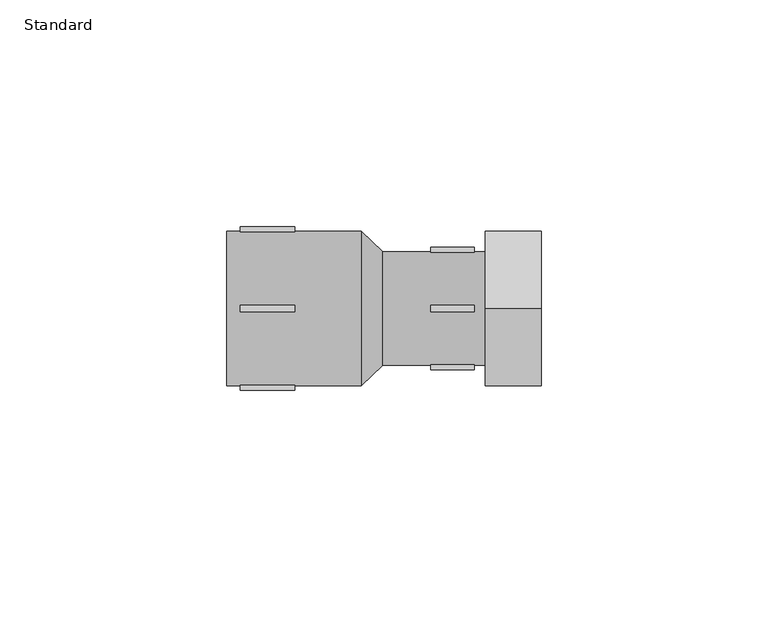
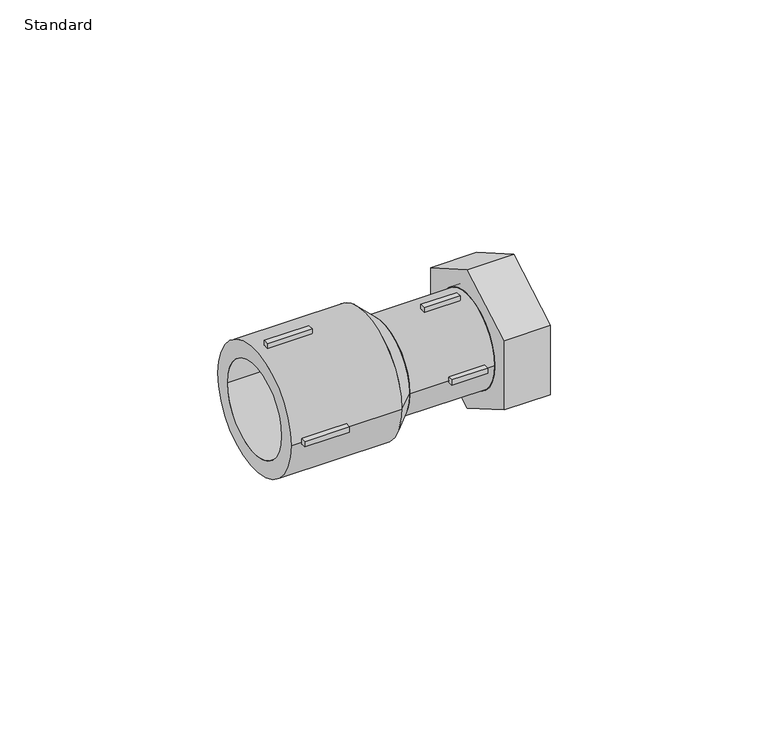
"""IFC4 building model written with IfcOpenShell, lengths in millimetres: pipe fitting geometry, EGB_VASEN_ PPR_Enlace tuerca loca : Standard."""

from ifc_helpers import new_model, si_unit, point, frame, origin, origin_2d, place, context, project, spatial, polyline, circle_curve, trimmed, segment, composite_curve, outline, extrude, source, transform, mapped, element, save
from ifc_brep_helpers import plane_surface, revolved_surface, advanced_brep


def standard_92ba97b2(model_context):
    return source(origin(), model_context, "Body", "SolidModel", [
        extrude(outline(polyline([(0.0, 19.6299092), (17.0, 9.8149546), (17.0, -9.8149546), (0.0, -19.6299092), (-17.0, -9.8149546), (-17.0, 9.8149546), (0.0, 19.6299092)]), holes=[composite_curve([segment(trimmed(circle_curve(origin_2d(), 12.7), [point((12.7, 0.0))], [point((-12.7, 0.0))], True, "CARTESIAN"), True, "CONTINUOUS"), segment(trimmed(circle_curve(origin_2d(), 12.7), [point((-12.7, 0.0))], [point((12.7, 0.0))], True, "CARTESIAN"), True, "CONTINUOUS")], self_intersect=False)]), frame((25.0, 0.0, 0.0), z_axis=(1.0, 0.0, 0.0), x_axis=(0.0, 1.0, 0.0)), (0.0, 0.0, 1.0), 12.3333333),
        extrude(outline(polyline([(13.0, -0.75), (13.0, 0.75), (22.6, 0.75), (22.6, -0.75), (13.0, -0.75)])), frame((0.0, 0.0, 11.5), z_axis=(0.0, 0.0, 1.0), x_axis=(1.0, 0.0, 0.0)), (0.0, 0.0, 1.0), 2.0),
        extrude(outline(polyline([(13.0, -0.75), (13.0, 0.75), (22.6, 0.75), (22.6, -0.75), (13.0, -0.75)])), frame((0.0, 0.0, -13.5), z_axis=(0.0, 0.0, 1.0), x_axis=(1.0, 0.0, 0.0)), (0.0, 0.0, 1.0), 2.0),
        extrude(outline(polyline([(13.0, 11.5), (13.0, 13.5), (22.6, 13.5), (22.6, 11.5), (13.0, 11.5)])), frame((0.0, 0.0, -0.75), z_axis=(0.0, 0.0, 1.0), x_axis=(1.0, 0.0, 0.0)), (0.0, 0.0, 1.0), 1.5),
        extrude(outline(polyline([(13.0, -13.5), (13.0, -11.5), (22.6, -11.5), (22.6, -13.5), (13.0, -13.5)])), frame((0.0, 0.0, -0.75), z_axis=(0.0, 0.0, 1.0), x_axis=(1.0, 0.0, 0.0)), (0.0, 0.0, 1.0), 1.5),
        extrude(outline(polyline([(-17.0, 0.75), (-17.0, -0.75), (-29.0, -0.75), (-29.0, 0.75), (-17.0, 0.75)])), frame((0.0, 0.0, 16.0), z_axis=(0.0, 0.0, 1.0), x_axis=(1.0, 0.0, 0.0)), (0.0, 0.0, 1.0), 2.0),
        extrude(outline(polyline([(-17.0, 0.75), (-17.0, -0.75), (-29.0, -0.75), (-29.0, 0.75), (-17.0, 0.75)])), frame((0.0, 0.0, -18.0), z_axis=(0.0, 0.0, 1.0), x_axis=(1.0, 0.0, 0.0)), (0.0, 0.0, 1.0), 2.0),
        extrude(outline(polyline([(-17.0, 18.0), (-17.0, 16.0), (-29.0, 16.0), (-29.0, 18.0), (-17.0, 18.0)])), frame((0.0, 0.0, -0.75), z_axis=(0.0, 0.0, 1.0), x_axis=(1.0, 0.0, 0.0)), (0.0, 0.0, 1.0), 1.5),
        extrude(outline(polyline([(-17.0, -16.0), (-17.0, -18.0), (-29.0, -18.0), (-29.0, -16.0), (-17.0, -16.0)])), frame((0.0, 0.0, -0.75), z_axis=(0.0, 0.0, 1.0), x_axis=(1.0, 0.0, 0.0)), (0.0, 0.0, 1.0), 1.5),
        extrude(outline(composite_curve([segment(trimmed(circle_curve(origin_2d(), 12.5), [point((-12.5, 0.0))], [point((12.5, 0.0))], False, "CARTESIAN"), True, "CONTINUOUS"), segment(trimmed(circle_curve(origin_2d(), 12.5), [point((12.5, 0.0))], [point((-12.5, 0.0))], False, "CARTESIAN"), True, "CONTINUOUS")], self_intersect=False), holes=[composite_curve([segment(trimmed(circle_curve(origin_2d(), 8.5), [point((-8.5, 0.0))], [point((8.5, 0.0))], True, "CARTESIAN"), True, "CONTINUOUS"), segment(trimmed(circle_curve(origin_2d(), 8.5), [point((8.5, 0.0))], [point((-8.5, 0.0))], True, "CARTESIAN"), True, "CONTINUOUS")], self_intersect=False)]), frame((2.4, 0.0, 0.0), z_axis=(1.0, 0.0, 0.0), x_axis=(0.0, 1.0, 0.0)), (0.0, 0.0, 1.0), 22.6),
        extrude(outline(composite_curve([segment(trimmed(circle_curve(origin_2d(), 17.0), [point((-17.0, 0.0))], [point((17.0, 0.0))], False, "CARTESIAN"), True, "CONTINUOUS"), segment(trimmed(circle_curve(origin_2d(), 17.0), [point((17.0, 0.0))], [point((-17.0, 0.0))], False, "CARTESIAN"), True, "CONTINUOUS")], self_intersect=False), holes=[composite_curve([segment(trimmed(circle_curve(origin_2d(), 12.5), [point((-12.5, 0.0))], [point((12.5, 0.0))], True, "CARTESIAN"), True, "CONTINUOUS"), segment(trimmed(circle_curve(origin_2d(), 12.5), [point((12.5, 0.0))], [point((-12.5, 0.0))], True, "CARTESIAN"), True, "CONTINUOUS")], self_intersect=False)]), frame((-32.0, 0.0, 0.0), z_axis=(1.0, 0.0, 0.0), x_axis=(0.0, 1.0, 0.0)), (0.0, 0.0, 1.0), 29.6),
        advanced_brep(
        [(2.4, -12.5, 0.0), (2.4, 12.5, 0.0), (-2.4, -17.0, 0.0), (-2.4, 17.0, 0.0)],
        [
            (0, 1, circle_curve(frame((2.4, 0.0, 0.0), z_axis=(1.0, 0.0, 0.0), x_axis=(0.0, -1.0, 0.0)), 12.5)),
            (1, 0, circle_curve(frame((2.4, 0.0, 0.0), z_axis=(1.0, 0.0, 0.0), x_axis=(0.0, 1.0, 0.0)), 12.5)),
            (2, 3, circle_curve(frame((-2.4, 0.0, 0.0), z_axis=(-1.0, 0.0, 0.0), x_axis=(0.0, 1.0, 0.0)), 17.0)),
            (3, 2, circle_curve(frame((-2.4, 0.0, 0.0), z_axis=(-1.0, 0.0, 0.0), x_axis=(0.0, -1.0, 0.0)), 17.0)),
            (3, 1),
            (0, 2),
        ],
        [
            plane_surface(frame((2.4, 0.0, 0.0), z_axis=(1.0, 0.0, 0.0), x_axis=(0.0, 0.0, -1.0))),
            plane_surface(frame((-2.4, 0.0, 0.0), z_axis=(-1.0, 0.0, 0.0), x_axis=(0.0, 0.0, -1.0))),
            revolved_surface(polyline([(2.4000000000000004, -12.499999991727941, 0.0), (-2.4000000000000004, -17.0, 0.0)]), (15.7333333, 0.0, 0.0), (-1.0, 0.0, 0.0)),
            revolved_surface(polyline([(2.4000000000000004, 12.499999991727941, 0.0), (-2.4000000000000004, 17.0, 0.0)]), (15.7333333, 0.0, 0.0), (-1.0, 0.0, 0.0)),
        ],
        [
            (0, [[1, 2]]),
            (1, [[3, 4]]),
            (2, [[-4, 5, -1, 6]]),
            (3, [[-3, -6, -2, -5]]),
        ],
    ),
    ])


if __name__ == "__main__":
    model = new_model("IFC4")
    model_context = context("Model", 3, world=origin())
    ifc_project = project(units=[si_unit("LENGTHUNIT", "METRE", prefix="MILLI")], contexts=[model_context])
    site = spatial("IfcSite", under=ifc_project)
    building = spatial("IfcBuilding", under=site)
    placement = place(None, origin())
    standard_shape = standard_92ba97b2(model_context)
    element("IfcPipeFitting", 1, ObjectType="EGB_VASEN_ PPR_Enlace tuerca loca : Standard", at=placement, inside=building, context=model_context, shape_type="MappedRepresentation", body=[
        mapped(standard_shape, transform((0.0, 0.0, 0.0), x_axis=(1.0, 0.0, 0.0), y_axis=(0.0, 1.0, 0.0), z_axis=(0.0, 0.0, 1.0))),
    ])
    save(model, "model.ifc")
